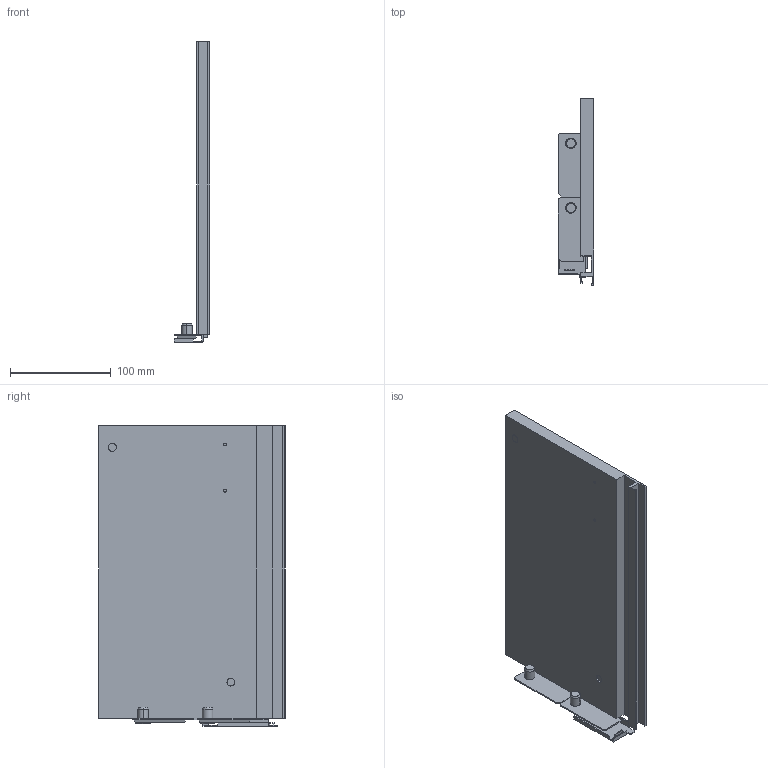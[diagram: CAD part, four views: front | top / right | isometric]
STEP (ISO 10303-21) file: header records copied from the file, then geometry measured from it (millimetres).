
FILE_DESCRIPTION (( 'STEP AP214' ), '1' );
FILE_NAME ('Vionaro_Alu-Zarge_H185_NL0_RE.STEP', '2014-08-20T15:01:55', ( '' ), ( '' ), 'SwSTEP 2.0', 'SolidWorks 2013', '' );
FILE_SCHEMA (( 'AUTOMOTIVE_DESIGN' ));
Length unit declared in the file: millimetre
Products named in the file (1): Vionaro_Alu-Zarge_H185_NL0_RE
Bounding box: 35.6 x 185 x 297.9 mm (x, y, z)
Volume: 634368.6 mm3; surface area: 141973.3 mm2
Topology: 1 solids, 1 shells, 136 faces, 356 edges, 233 vertices
Faces by surface type: plane 96, cylinder 32, cone 8
Entity records: 4187 total; most frequent: CARTESIAN_POINT 732, ORIENTED_EDGE 712, DIRECTION 701, EDGE_CURVE 356, VECTOR 281, LINE 281, VERTEX_POINT 233, AXIS2_PLACEMENT_3D 210
